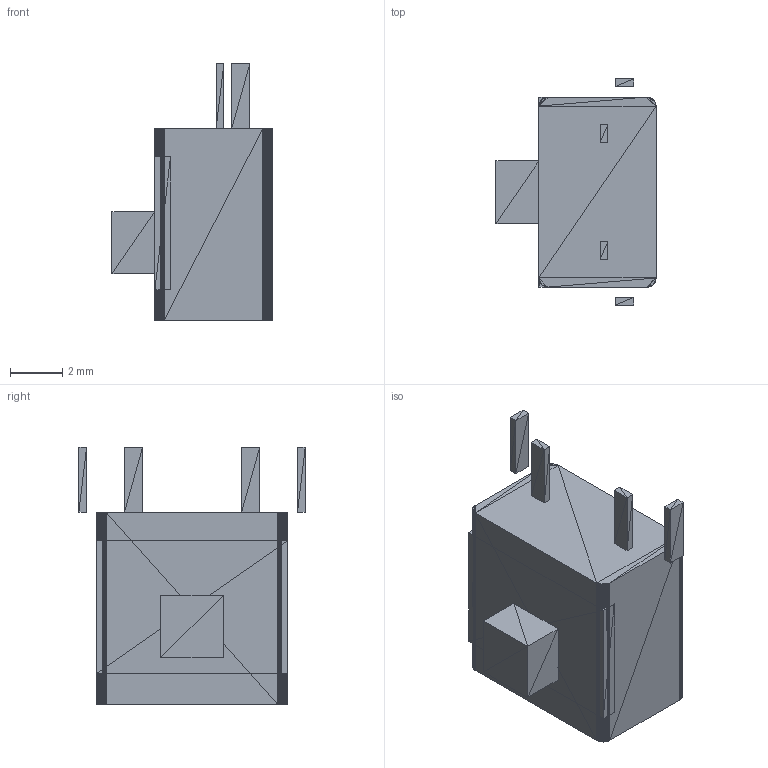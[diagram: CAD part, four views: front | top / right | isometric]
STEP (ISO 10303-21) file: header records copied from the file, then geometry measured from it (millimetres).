
FILE_DESCRIPTION(('Open CASCADE Model'),'2;1');
FILE_NAME('Open CASCADE Shape Model','2026-09-08T12:38:22',('Author'),( 'Open CASCADE'),'Open CASCADE STEP processor 7.7','Open CASCADE 7.7' ,'Unknown');
FILE_SCHEMA(('AUTOMOTIVE_DESIGN { 1 0 10303 214 1 1 1 1 }'));
Length unit declared in the file: millimetre
Products named in the file (8): Open CASCADE STEP translator 7.7 13; Open CASCADE STEP translator 7.7 13.1; Open CASCADE STEP translator 7.7 13.2; Open CASCADE STEP translator 7.7 13.3; Open CASCADE STEP translator 7.7 13.4; Open CASCADE STEP translator 7.7 13.5; Open CASCADE STEP translator 7.7 13.6; Open CASCADE STEP translator 7.7 13.7
Assembly tree (7 placements, depth 2):
  Open CASCADE STEP translator 7.7 13
    Open CASCADE STEP translator 7.7 13.1
    Open CASCADE STEP translator 7.7 13.2
    Open CASCADE STEP translator 7.7 13.3
    Open CASCADE STEP translator 7.7 13.4
    Open CASCADE STEP translator 7.7 13.5
    Open CASCADE STEP translator 7.7 13.6
    Open CASCADE STEP translator 7.7 13.7
Bounding box: 6.15 x 8.7 x 9.9 mm (x, y, z)
Volume: 276.3 mm3; surface area: 374.1 mm2
Topology: 7 solids, 7 shells, 420 faces, 630 edges, 224 vertices
Faces by surface type: plane 420
Entity records: 16564 total; most frequent: DIRECTION 2746, CARTESIAN_POINT 2542, LINE 1890, VECTOR 1890, ORIENTED_EDGE 1260, PCURVE 1260, DEFINITIONAL_REPRESENTATION 1260, EDGE_CURVE 630
